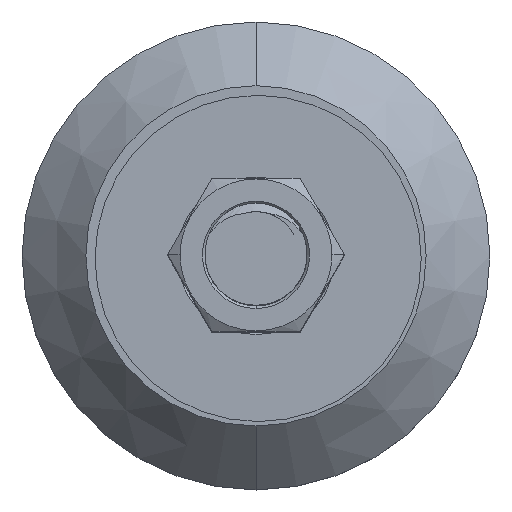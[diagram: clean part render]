
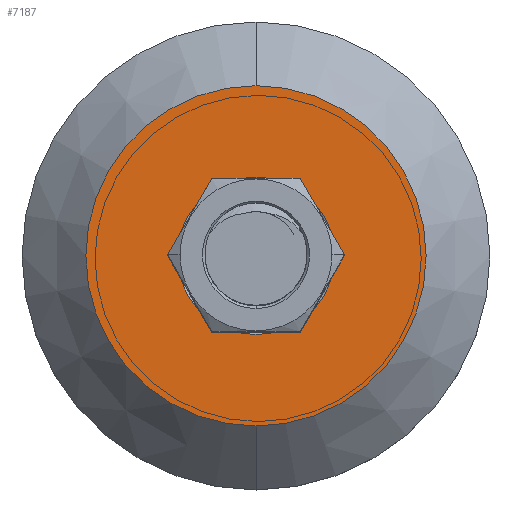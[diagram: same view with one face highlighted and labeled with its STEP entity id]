
A CAD part, top view. The second image highlights one B-rep face of the part: STEP entity #7187.
In plain terms, the highlighted planar face has unit normal (0, 0, 1).
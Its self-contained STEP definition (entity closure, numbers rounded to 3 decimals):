
#90 = DIRECTION ( 'NONE',  ( 0., 0., 1. ) ) ;
#465 = CIRCLE ( 'NONE', #4438, 9.25 ) ;
#519 = CIRCLE ( 'NONE', #2998, 9.25 ) ;
#1106 = VERTEX_POINT ( 'NONE', #3997 ) ;
#1749 = AXIS2_PLACEMENT_3D ( 'NONE', #9761, #10754, #4763 ) ;
#1841 = CIRCLE ( 'NONE', #10479, 20. ) ;
#2318 = FACE_BOUND ( 'NONE', #10907, .T. ) ;
#2998 = AXIS2_PLACEMENT_3D ( 'NONE', #10863, #4869, #11885 ) ;
#3611 = VERTEX_POINT ( 'NONE', #10893 ) ;
#3997 = CARTESIAN_POINT ( 'NONE',  ( 9.25, 0., 14. ) ) ;
#4206 = CARTESIAN_POINT ( 'NONE',  ( 0., 0., 14. ) ) ;
#4438 = AXIS2_PLACEMENT_3D ( 'NONE', #4789, #11811, #5803 ) ;
#4763 = DIRECTION ( 'NONE',  ( 1., 0., 0. ) ) ;
#4789 = CARTESIAN_POINT ( 'NONE',  ( 0., 0., 14. ) ) ;
#4869 = DIRECTION ( 'NONE',  ( 0., 0., -1. ) ) ;
#5238 = DIRECTION ( 'NONE',  ( 0., 1., 0. ) ) ;
#5323 = FACE_OUTER_BOUND ( 'NONE', #7199, .T. ) ;
#5476 = EDGE_CURVE ( 'NONE', #3611, #9362, #7543, .T. ) ;
#5803 = DIRECTION ( 'NONE',  ( 1., 0., 0. ) ) ;
#6098 = CARTESIAN_POINT ( 'NONE',  ( 0., 0., 14. ) ) ;
#6113 = CARTESIAN_POINT ( 'NONE',  ( 0., 20., 14. ) ) ;
#6525 = EDGE_CURVE ( 'NONE', #6980, #1106, #465, .T. ) ;
#6543 = ORIENTED_EDGE ( 'NONE', *, *, #11617, .T. ) ;
#6714 = EDGE_CURVE ( 'NONE', #9362, #3611, #1841, .T. ) ;
#6980 = VERTEX_POINT ( 'NONE', #12042 ) ;
#7117 = DIRECTION ( 'NONE',  ( 0., 1., 0. ) ) ;
#7187 = ADVANCED_FACE ( 'NONE', ( #2318, #5323 ), #8769, .T. ) ;
#7199 = EDGE_LOOP ( 'NONE', ( #8623, #11915 ) ) ;
#7543 = CIRCLE ( 'NONE', #11883, 20. ) ;
#8623 = ORIENTED_EDGE ( 'NONE', *, *, #6714, .T. ) ;
#8769 = PLANE ( 'NONE',  #1749 ) ;
#9362 = VERTEX_POINT ( 'NONE', #6113 ) ;
#9705 = ORIENTED_EDGE ( 'NONE', *, *, #6525, .T. ) ;
#9761 = CARTESIAN_POINT ( 'NONE',  ( -20.24, -20.24, 14. ) ) ;
#10479 = AXIS2_PLACEMENT_3D ( 'NONE', #6098, #90, #7117 ) ;
#10754 = DIRECTION ( 'NONE',  ( 0., 0., 1. ) ) ;
#10863 = CARTESIAN_POINT ( 'NONE',  ( 0., 0., 14. ) ) ;
#10893 = CARTESIAN_POINT ( 'NONE',  ( 0., -20., 14. ) ) ;
#10907 = EDGE_LOOP ( 'NONE', ( #6543, #9705 ) ) ;
#11225 = DIRECTION ( 'NONE',  ( 0., 0., 1. ) ) ;
#11617 = EDGE_CURVE ( 'NONE', #1106, #6980, #519, .T. ) ;
#11811 = DIRECTION ( 'NONE',  ( 0., 0., -1. ) ) ;
#11883 = AXIS2_PLACEMENT_3D ( 'NONE', #4206, #11225, #5238 ) ;
#11885 = DIRECTION ( 'NONE',  ( 1., 0., 0. ) ) ;
#11915 = ORIENTED_EDGE ( 'NONE', *, *, #5476, .T. ) ;
#12042 = CARTESIAN_POINT ( 'NONE',  ( -9.25, 0., 14. ) ) ;
